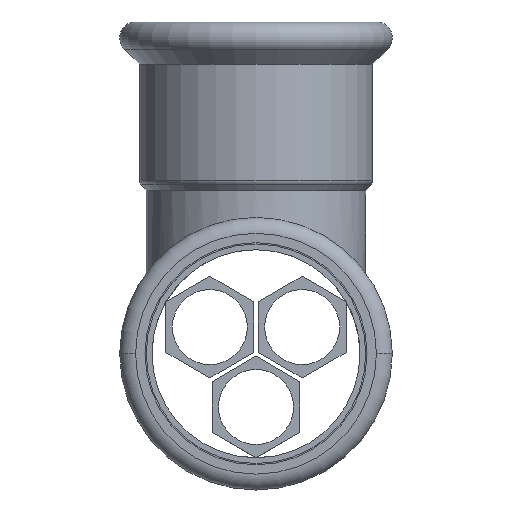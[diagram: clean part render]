
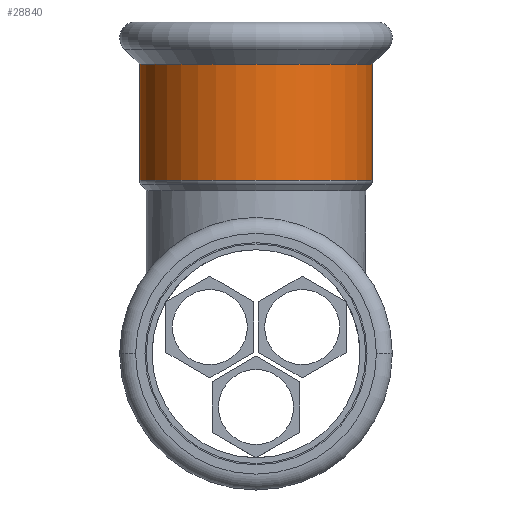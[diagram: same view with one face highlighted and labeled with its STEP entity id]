
A CAD part, left-side view. The second image highlights one B-rep face of the part: STEP entity #28840.
In plain terms, the highlighted cylindrical face has radius 40.45 mm (diameter 80.9 mm), a partial arc.
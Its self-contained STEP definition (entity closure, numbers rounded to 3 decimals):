
#28280=CARTESIAN_POINT('',(-53.,40.45,60.088));
#28290=VERTEX_POINT('',#28280);
#28390=CARTESIAN_POINT('',(-53.,-40.45,60.088));
#28400=VERTEX_POINT('',#28390);
#28430=CARTESIAN_POINT('',(-53.,0.,60.088));
#28440=DIRECTION('',(0.,0.,-1.));
#28450=DIRECTION('',(0.,-1.,0.));
#28460=AXIS2_PLACEMENT_3D('',#28430,#28440,#28450);
#28470=CIRCLE('',#28460,40.45);
#28480=EDGE_CURVE('',#28290,#28400,#28470,.T.);
#28530=CARTESIAN_POINT('',(-53.,0.,88.969));
#28540=DIRECTION('',(0.,0.,-1.));
#28550=DIRECTION('',(0.,-1.,0.));
#28560=AXIS2_PLACEMENT_3D('',#28530,#28540,#28550);
#28570=CYLINDRICAL_SURFACE('',#28560,40.45);
#28580=CARTESIAN_POINT('',(-53.,-40.45,88.969));
#28590=DIRECTION('',(0.,0.,-1.));
#28600=VECTOR('',#28590,1.);
#28610=LINE('',#28580,#28600);
#28620=CARTESIAN_POINT('',(-53.,-40.45,100.422));
#28630=VERTEX_POINT('',#28620);
#28640=EDGE_CURVE('',#28630,#28400,#28610,.T.);
#28650=ORIENTED_EDGE('',*,*,#28640,.T.);
#28660=CARTESIAN_POINT('',(-53.,0.,100.422));
#28670=DIRECTION('',(0.,0.,1.));
#28680=DIRECTION('',(0.,-1.,0.));
#28690=AXIS2_PLACEMENT_3D('',#28660,#28670,#28680);
#28700=CIRCLE('',#28690,40.45);
#28710=CARTESIAN_POINT('',(-53.,40.45,100.422));
#28720=VERTEX_POINT('',#28710);
#28730=EDGE_CURVE('',#28630,#28720,#28700,.T.);
#28740=ORIENTED_EDGE('',*,*,#28730,.F.);
#28750=CARTESIAN_POINT('',(-53.,40.45,88.969));
#28760=DIRECTION('',(0.,0.,-1.));
#28770=VECTOR('',#28760,1.);
#28780=LINE('',#28750,#28770);
#28790=EDGE_CURVE('',#28720,#28290,#28780,.T.);
#28800=ORIENTED_EDGE('',*,*,#28790,.F.);
#28810=ORIENTED_EDGE('',*,*,#28480,.F.);
#28820=EDGE_LOOP('',(#28810,#28800,#28740,#28650));
#28830=FACE_OUTER_BOUND('',#28820,.T.);
#28840=ADVANCED_FACE('',(#28830),#28570,.T.);
